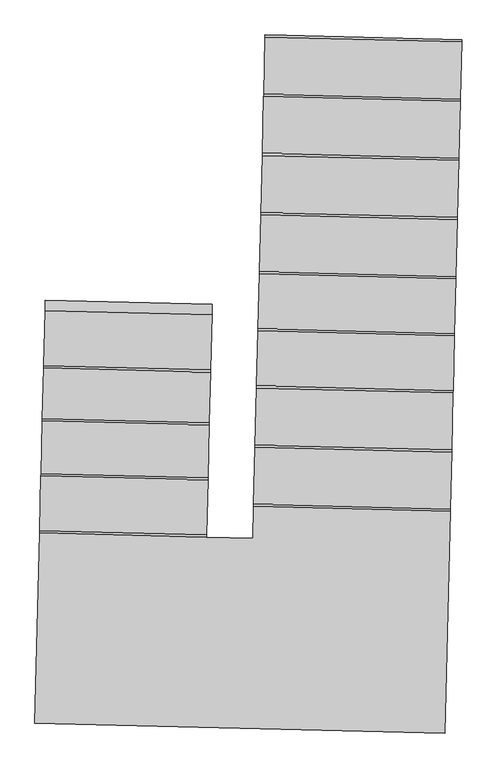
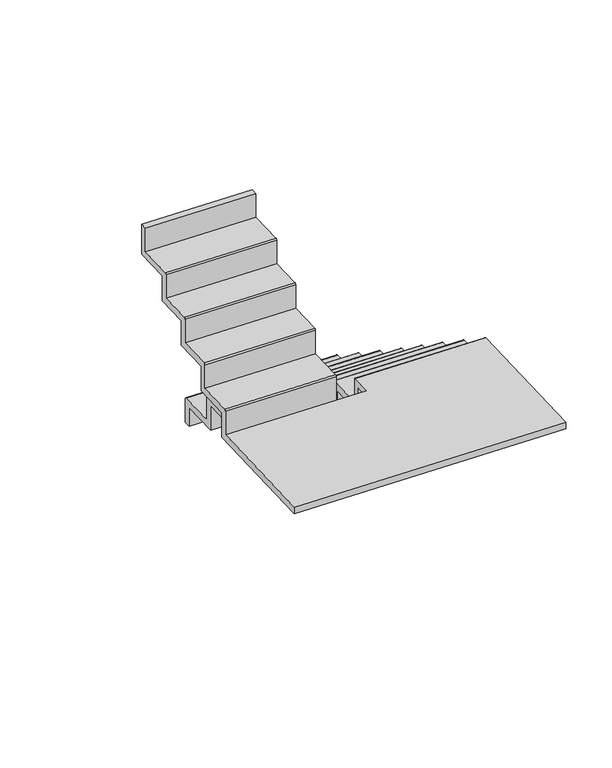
"""IFC4 building model written with IfcOpenShell, lengths in millimetres: stair flight geometry, Huella 50 mm Contrahuella 13 mm."""

from ifc_helpers import new_model, si_unit, frame, origin, place, context, project, spatial, circle_curve, source, transform, mapped, element, save
from ifc_brep_helpers import plane_surface, cylinder_surface, advanced_brep


def stair_flight_34b09c1e(model_context):
    return source(origin(), model_context, "Body", "AdvancedBrep", [
        advanced_brep(
        [(6015.8620475, 3534.5215625, 179.3103448), (6015.8620475, 3534.5215625, 0.0), (6014.6346639, 3484.5366295, 0.0), (6014.6346639, 3484.5366295, 139.3103448), (6007.7613159, 3204.6210045, 139.3103448), (6007.7613159, 3204.6210045, 328.6206897), (6000.887968, 2924.7053799, 328.6206897), (6000.887968, 2924.7053799, 517.9310345), (5994.01462, 2644.789755, 517.9310345), (5994.01462, 2644.789755, 707.2413793), (5987.141272, 2364.87413, 707.2413793), (5987.141272, 2364.87413, 896.5517241), (5980.5134007, 2094.9554917, 896.5517241), (5980.5134007, 2094.9554917, 1085.862069), (5973.8855295, 1825.0368534, 1085.862069), (5973.8855295, 1825.0368534, 1275.1724138), (5967.0121815, 1545.1212284, 1275.1724138), (5967.0121815, 1545.1212284, 1464.4827586), (5960.1388335, 1265.2056032, 1464.4827586), (5960.1388335, 1265.2056032, 1653.7931034), (5957.4385897, 1155.2387507, 1653.7931034), (5957.4385897, 1155.2387507, 1703.7931034), (5961.1207404, 1305.1935496, 1703.7931034), (5961.3662171, 1315.1905362, 1693.7931034), (5961.3662171, 1315.1905362, 1514.4827586), (5967.9940884, 1585.1091748, 1514.4827586), (5968.2395651, 1595.1061615, 1504.4827586), (5968.2395651, 1595.1061615, 1325.1724138), (5974.8674363, 1865.0247998, 1325.1724138), (5975.1129131, 1875.0217864, 1315.1724138), (5975.1129131, 1875.0217864, 1135.862069), (5981.4953076, 2134.9434381, 1135.862069), (5981.7407843, 2144.9404247, 1125.862069), (5981.7407843, 2144.9404247, 946.5517241), (5988.1231789, 2404.8620764, 946.5517241), (5988.3686556, 2414.859063, 936.5517241), (5988.3686556, 2414.859063, 757.2413793), (5994.9965268, 2684.7777014, 757.2413793), (5995.2420035, 2694.774688, 747.2413793), (5995.2420035, 2694.774688, 567.9310345), (6001.8698748, 2964.6933263, 567.9310345), (6002.1153515, 2974.6903129, 557.9310345), (6002.1153515, 2974.6903129, 378.6206897), (6008.7432228, 3244.6089509, 378.6206897), (6008.9886995, 3254.6059375, 368.6206897), (6008.9886995, 3254.6059375, 189.3103448), (6015.6165708, 3524.5245759, 189.3103448), (6944.3544178, 3461.7072962, 0.0), (6945.5818013, 3511.6922292, 0.0), (6945.5818013, 3511.6922292, 179.3103448), (6945.3363246, 3501.6952426, 189.3103448), (6938.7084537, 3231.7766044, 189.3103448), (6938.7084537, 3231.7766044, 368.6206897), (6938.462977, 3221.7796178, 378.6206897), (6931.8351061, 2951.8609794, 378.6206897), (6931.8351061, 2951.8609794, 557.9310345), (6931.5896294, 2941.8639928, 567.9310345), (6924.9617585, 2671.9453549, 567.9310345), (6924.9617585, 2671.9453549, 747.2413793), (6924.7162818, 2661.9483683, 757.2413793), (6918.0884109, 2392.0297301, 757.2413793), (6918.0884109, 2392.0297301, 936.5517241), (6917.8429342, 2382.0327435, 946.5517241), (6911.4605399, 2122.1110916, 946.5517241), (6911.4605399, 2122.1110916, 1125.862069), (6911.2150632, 2112.114105, 1135.862069), (6904.832669, 1852.1924531, 1135.862069), (6904.832669, 1852.1924531, 1315.1724138), (6904.5871923, 1842.1954665, 1325.1724138), (6897.9593214, 1572.2768281, 1325.1724138), (6897.9593214, 1572.2768281, 1504.4827586), (6897.7138447, 1562.2798415, 1514.4827586), (6891.0859738, 1292.3612033, 1514.4827586), (6891.0859738, 1292.3612033, 1693.7931034), (6890.8404971, 1282.3642167, 1703.7931034), (6865.0980794, 234.0097105, 1703.7931034), (6865.0980794, 234.0097105, 1653.7931034), (6889.8585903, 1242.3762703, 1653.7931034), (6889.8585903, 1242.3762703, 1464.4827586), (6896.7319379, 1522.2918951, 1464.4827586), (6896.7319379, 1522.2918951, 1275.1724138), (6903.6052855, 1802.2075201, 1275.1724138), (6903.6052855, 1802.2075201, 1085.862069), (6910.2331564, 2072.1261586, 1085.862069), (6910.2331564, 2072.1261586, 896.5517241), (6916.8610273, 2342.0447971, 896.5517241), (6916.8610273, 2342.0447971, 707.2413793), (6923.734375, 2621.9604219, 707.2413793), (6923.734375, 2621.9604219, 517.9310345), (6930.6077226, 2901.8760464, 517.9310345), (6930.6077226, 2901.8760464, 328.6206897), (6937.4810702, 3181.7916714, 328.6206897), (6937.4810702, 3181.7916714, 139.3103448), (6944.3544178, 3461.7072962, 139.3103448), (4947.742945, 1180.0318975, 1703.7931034), (4925.6500419, 280.3031029, 1703.7931034), (5737.5048856, 1160.6392379, 1703.7931034), (5737.5048856, 1160.6392379, 1653.7931034), (4925.6500419, 280.3031029, 1653.7931034), (4948.9703285, 1230.0168305, 1653.7931034), (5738.7322692, 1210.6241709, 1653.7931034), (4947.742945, 1180.0318975, 1883.1034483), (4947.9884217, 1190.0288841, 1893.1034483), (4954.370816, 1449.950536, 1893.1034483), (4954.370816, 1449.950536, 2072.4137931), (4954.6162927, 1459.9475226, 2082.4137931), (4960.7532102, 1709.8721876, 2082.4137931), (4960.7532102, 1709.8721876, 2261.7241379), (4960.9986869, 1719.8691742, 2271.7241379), (4966.8901278, 1959.7968531, 2271.7241379), (4966.8901278, 1959.7968531, 2451.0344828), (4967.1356045, 1969.7938397, 2461.0344828), (4973.5179987, 2229.7154914, 2461.0344828), (4973.5179987, 2229.7154914, 2640.3448276), (4974.7453822, 2279.7004244, 2640.3448276), (4974.7453822, 2279.7004244, 2411.0344828), (4968.1175113, 2009.7817862, 2411.0344828), (4968.1175113, 2009.7817862, 2221.7241379), (4961.9805937, 1759.8571206, 2221.7241379), (4961.9805937, 1759.8571206, 2032.4137931), (4955.5981995, 1499.935469, 2032.4137931), (4955.5981995, 1499.935469, 1843.1034483), (4948.9703285, 1230.0168305, 1843.1034483), (5738.7322692, 1210.6241709, 1843.1034483), (5745.3601404, 1480.5428094, 1843.1034483), (5745.3601404, 1480.5428094, 2032.4137931), (5751.742535, 1740.464461, 2032.4137931), (5751.742535, 1740.464461, 2221.7241379), (5757.8794528, 1990.3891267, 2221.7241379), (5757.8794528, 1990.3891267, 2411.0344828), (5764.5073241, 2260.3077652, 2411.0344828), (5764.5073241, 2260.3077652, 2640.3448276), (5763.2799405, 2210.3228322, 2640.3448276), (5763.2799405, 2210.3228322, 2461.0344828), (5756.897546, 1950.4011803, 2461.0344828), (5756.6520693, 1940.4041937, 2451.0344828), (5756.6520693, 1940.4041937, 2271.7241379), (5750.7606281, 1700.4765145, 2271.7241379), (5750.5151514, 1690.4795279, 2261.7241379), (5750.5151514, 1690.4795279, 2082.4137931), (5744.3782336, 1440.554863, 2082.4137931), (5744.1327569, 1430.5578764, 2072.4137931), (5744.1327569, 1430.5578764, 1893.1034483), (5737.7503623, 1170.6362245, 1893.1034483), (5737.5048856, 1160.6392379, 1883.1034483)],
        [
            (0, 1),
            (1, 2),
            (2, 3),
            (3, 4),
            (4, 5),
            (5, 6),
            (6, 7),
            (7, 8),
            (8, 9),
            (9, 10),
            (10, 11),
            (11, 12),
            (12, 13),
            (13, 14),
            (14, 15),
            (15, 16),
            (16, 17),
            (17, 18),
            (18, 19),
            (19, 20),
            (20, 21),
            (21, 22),
            (22, 23, circle_curve(frame((5961.1207404, 1305.1935496, 1693.7931034), z_axis=(-0.9996986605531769, 0.02454766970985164, 0.0), x_axis=(-0.02454766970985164, -0.9996986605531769, 0.0)), 10.0)),
            (23, 24),
            (24, 25),
            (25, 26, circle_curve(frame((5967.9940884, 1585.1091748, 1504.4827586), z_axis=(-0.9996986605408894, 0.024547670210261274, 0.0), x_axis=(-0.024547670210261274, -0.9996986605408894, 0.0)), 10.0)),
            (26, 27),
            (27, 28),
            (28, 29, circle_curve(frame((5974.8674363, 1865.0247998, 1315.1724138), z_axis=(-0.9996986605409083, 0.024547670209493, 0.0), x_axis=(-0.024547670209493, -0.9996986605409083, 0.0)), 10.0)),
            (29, 30),
            (30, 31),
            (31, 32, circle_curve(frame((5981.4953076, 2134.9434381, 1125.862069), z_axis=(-0.9996986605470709, 0.02454766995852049, 0.0), x_axis=(-0.02454766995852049, -0.9996986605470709, 0.0)), 10.0)),
            (32, 33),
            (33, 34),
            (34, 35, circle_curve(frame((5988.1231789, 2404.8620764, 936.5517241), z_axis=(-0.9996986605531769, 0.024547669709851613, 0.0), x_axis=(-0.024547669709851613, -0.9996986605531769, 0.0)), 10.0)),
            (35, 36),
            (36, 37),
            (37, 38, circle_curve(frame((5994.9965268, 2684.7777014, 747.2413793), z_axis=(-0.999698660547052, 0.024547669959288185, 0.0), x_axis=(-0.024547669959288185, -0.999698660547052, 0.0)), 10.0)),
            (38, 39),
            (39, 40),
            (40, 41, circle_curve(frame((6001.8698748, 2964.6933263, 557.9310345), z_axis=(-0.99969866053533, 0.024547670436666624, 0.0), x_axis=(-0.024547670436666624, -0.99969866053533, 0.0)), 10.0)),
            (41, 42),
            (42, 43),
            (43, 44, circle_curve(frame((6008.7432228, 3244.6089509, 368.6206897), z_axis=(-0.999698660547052, 0.024547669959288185, 0.0), x_axis=(-0.024547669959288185, -0.999698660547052, 0.0)), 10.0)),
            (44, 45),
            (45, 46),
            (46, 0, circle_curve(frame((6015.6165708, 3524.5245759, 179.3103448), z_axis=(-0.9996986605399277, 0.02454767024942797, 0.0), x_axis=(-0.02454767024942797, -0.9996986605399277, 0.0)), 10.0)),
            (47, 48),
            (48, 49),
            (49, 50, circle_curve(frame((6945.3363246, 3501.6952426, 179.3103448), z_axis=(0.9996986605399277, -0.02454767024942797, 0.0), x_axis=(-0.02454767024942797, -0.9996986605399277, 0.0)), 10.0)),
            (50, 51),
            (51, 52),
            (52, 53, circle_curve(frame((6938.462977, 3221.7796178, 368.6206897), z_axis=(0.999698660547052, -0.024547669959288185, 0.0), x_axis=(-0.024547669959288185, -0.999698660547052, 0.0)), 10.0)),
            (53, 54),
            (54, 55),
            (55, 56, circle_curve(frame((6931.5896294, 2941.8639928, 557.9310345), z_axis=(0.99969866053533, -0.024547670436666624, 0.0), x_axis=(-0.024547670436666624, -0.99969866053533, 0.0)), 10.0)),
            (56, 57),
            (57, 58),
            (58, 59, circle_curve(frame((6924.7162818, 2661.9483683, 747.2413793), z_axis=(0.999698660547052, -0.024547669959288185, 0.0), x_axis=(-0.024547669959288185, -0.999698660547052, 0.0)), 10.0)),
            (59, 60),
            (60, 61),
            (61, 62, circle_curve(frame((6917.8429342, 2382.0327435, 936.5517241), z_axis=(0.9996986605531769, -0.024547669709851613, 0.0), x_axis=(-0.024547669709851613, -0.9996986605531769, 0.0)), 10.0)),
            (62, 63),
            (63, 64),
            (64, 65, circle_curve(frame((6911.2150632, 2112.114105, 1125.862069), z_axis=(0.9996986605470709, -0.02454766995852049, 0.0), x_axis=(-0.02454766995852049, -0.9996986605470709, 0.0)), 10.0)),
            (65, 66),
            (66, 67),
            (67, 68, circle_curve(frame((6904.5871923, 1842.1954665, 1315.1724138), z_axis=(0.9996986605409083, -0.024547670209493, 0.0), x_axis=(-0.024547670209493, -0.9996986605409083, 0.0)), 10.0)),
            (68, 69),
            (69, 70),
            (70, 71, circle_curve(frame((6897.7138447, 1562.2798415, 1504.4827586), z_axis=(0.9996986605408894, -0.024547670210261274, 0.0), x_axis=(-0.024547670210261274, -0.9996986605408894, 0.0)), 10.0)),
            (71, 72),
            (72, 73),
            (73, 74, circle_curve(frame((6890.8404971, 1282.3642167, 1693.7931034), z_axis=(0.9996986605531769, -0.02454766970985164, 0.0), x_axis=(-0.02454766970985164, -0.9996986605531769, 0.0)), 10.0)),
            (74, 75),
            (75, 76),
            (76, 77),
            (77, 78),
            (78, 79),
            (79, 80),
            (80, 81),
            (81, 82),
            (82, 83),
            (83, 84),
            (84, 85),
            (85, 86),
            (86, 87),
            (87, 88),
            (88, 89),
            (89, 90),
            (90, 91),
            (91, 92),
            (92, 93),
            (93, 47),
            (0, 49),
            (48, 1),
            (47, 2),
            (93, 3),
            (50, 46),
            (45, 51),
            (92, 4),
            (44, 52),
            (91, 5),
            (53, 43),
            (42, 54),
            (90, 6),
            (41, 55),
            (89, 7),
            (56, 40),
            (39, 57),
            (88, 8),
            (38, 58),
            (87, 9),
            (59, 37),
            (36, 60),
            (86, 10),
            (35, 61),
            (85, 11),
            (62, 34),
            (33, 63),
            (84, 12),
            (32, 64),
            (83, 13),
            (65, 31),
            (30, 66),
            (82, 14),
            (29, 67),
            (81, 15),
            (68, 28),
            (27, 69),
            (80, 16),
            (26, 70),
            (79, 17),
            (71, 25),
            (24, 72),
            (78, 18),
            (23, 73),
            (77, 19),
            (94, 95),
            (95, 75),
            (74, 22),
            (21, 96),
            (96, 94),
            (97, 20),
            (76, 98),
            (98, 99),
            (99, 100),
            (100, 97),
            (94, 101),
            (101, 102, circle_curve(frame((4947.9884217, 1190.0288841, 1883.1034483), z_axis=(-0.9996986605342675, 0.024547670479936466, 0.0), x_axis=(0.024547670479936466, 0.9996986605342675, 0.0)), 10.0)),
            (102, 103),
            (103, 104),
            (104, 105, circle_curve(frame((4954.6162927, 1459.9475226, 2072.4137931), z_axis=(-0.9996986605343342, 0.024547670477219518, 0.0), x_axis=(0.024547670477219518, 0.9996986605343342, 0.0)), 10.0)),
            (105, 106),
            (106, 107),
            (107, 108, circle_curve(frame((4960.9986869, 1719.8691742, 2261.7241379), z_axis=(-0.9996986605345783, 0.024547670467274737, 0.0), x_axis=(0.024547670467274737, 0.9996986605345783, 0.0)), 10.0)),
            (108, 109),
            (109, 110),
            (110, 111, circle_curve(frame((4967.1356045, 1969.7938397, 2451.0344828), z_axis=(-0.9996986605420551, 0.024547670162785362, 0.0), x_axis=(0.024547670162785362, 0.9996986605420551, 0.0)), 10.0)),
            (111, 112),
            (112, 113),
            (113, 114),
            (114, 115),
            (115, 116),
            (116, 117),
            (117, 118),
            (118, 119),
            (119, 120),
            (120, 121),
            (121, 122),
            (122, 99),
            (98, 95),
            (97, 96),
            (100, 123),
            (123, 124),
            (124, 125),
            (125, 126),
            (126, 127),
            (127, 128),
            (128, 129),
            (129, 130),
            (130, 131),
            (131, 132),
            (132, 133),
            (133, 134),
            (134, 135, circle_curve(frame((5756.897546, 1950.4011803, 2451.0344828), z_axis=(0.9996986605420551, -0.024547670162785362, 0.0), x_axis=(0.024547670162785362, 0.9996986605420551, 0.0)), 10.0)),
            (135, 136),
            (136, 137),
            (137, 138, circle_curve(frame((5750.7606281, 1700.4765145, 2261.7241379), z_axis=(0.9996986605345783, -0.024547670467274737, 0.0), x_axis=(0.024547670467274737, 0.9996986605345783, 0.0)), 10.0)),
            (138, 139),
            (139, 140),
            (140, 141, circle_curve(frame((5744.3782336, 1440.554863, 2072.4137931), z_axis=(0.9996986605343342, -0.024547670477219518, 0.0), x_axis=(0.024547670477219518, 0.9996986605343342, 0.0)), 10.0)),
            (141, 142),
            (142, 143),
            (143, 144, circle_curve(frame((5737.7503623, 1170.6362245, 1883.1034483), z_axis=(0.9996986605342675, -0.024547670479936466, 0.0), x_axis=(0.024547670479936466, 0.9996986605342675, 0.0)), 10.0)),
            (144, 96),
            (144, 101),
            (122, 123),
            (102, 143),
            (142, 103),
            (121, 124),
            (141, 104),
            (120, 125),
            (105, 140),
            (139, 106),
            (119, 126),
            (138, 107),
            (118, 127),
            (108, 137),
            (136, 109),
            (117, 128),
            (135, 110),
            (116, 129),
            (132, 113),
            (112, 133),
            (115, 130),
            (114, 131),
            (111, 134),
        ],
        [
            plane_surface(frame((6015.6165708, 3524.5245759, 189.3103448), z_axis=(-0.9996986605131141, 0.0245476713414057, 0.0), x_axis=(0.0245476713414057, 0.9996986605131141, 0.0))),
            plane_surface(frame((6945.3363246, 3501.6952426, 189.3103448), z_axis=(0.9996986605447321, -0.024547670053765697, 0.0), x_axis=(0.024547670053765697, 0.9996986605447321, 0.0))),
            plane_surface(frame((6015.8620475, 3534.5215625, 179.3103448), z_axis=(0.02454767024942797, 0.9996986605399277, 0.0), x_axis=(0.9996986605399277, -0.02454767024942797, 0.0))),
            plane_surface(frame((6015.8620475, 3534.5215625, 0.0), z_axis=(0.0, 0.0, -1.0000000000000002), x_axis=(0.9996986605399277, -0.02454767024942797, 0.0))),
            plane_surface(frame((6014.6346639, 3484.5366295, 0.0), z_axis=(-0.024547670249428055, -0.9996986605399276, 0.0), x_axis=(0.9996986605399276, -0.024547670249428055, 0.0))),
            plane_surface(frame((6865.0654435, 232.6806231, 189.3103448), z_axis=(0.0, 0.0, 1.0), x_axis=(0.024547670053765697, 0.9996986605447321, 0.0))),
            plane_surface(frame((6865.0654435, 232.6806231, 139.3103448), z_axis=(0.0, 0.0, -1.0), x_axis=(-0.024547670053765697, -0.9996986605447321, 0.0))),
            plane_surface(frame((6008.9886995, 3254.6059375, 368.6206897), z_axis=(0.024547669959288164, 0.999698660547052, 0.0), x_axis=(0.999698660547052, -0.024547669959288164, 0.0))),
            plane_surface(frame((6007.7613159, 3204.6210045, 139.3103448), z_axis=(-0.024547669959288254, -0.999698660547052, 0.0), x_axis=(0.999698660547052, -0.024547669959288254, 0.0))),
            plane_surface(frame((6865.0654435, 232.6806231, 378.6206897), z_axis=(0.0, 0.0, 1.0), x_axis=(0.024547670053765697, 0.9996986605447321, 0.0))),
            plane_surface(frame((6865.0654435, 232.6806231, 328.6206897), z_axis=(0.0, 0.0, -1.0), x_axis=(-0.024547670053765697, -0.9996986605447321, 0.0))),
            plane_surface(frame((6002.1153515, 2974.6903129, 557.9310345), z_axis=(0.024547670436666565, 0.99969866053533, 0.0), x_axis=(0.99969866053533, -0.024547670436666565, 0.0))),
            plane_surface(frame((6000.887968, 2924.7053799, 328.6206897), z_axis=(-0.02454767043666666, -0.99969866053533, 0.0), x_axis=(0.99969866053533, -0.02454767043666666, 0.0))),
            plane_surface(frame((6865.0654435, 232.6806231, 567.9310345), z_axis=(0.0, 0.0, 1.0), x_axis=(0.024547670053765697, 0.9996986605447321, 0.0))),
            plane_surface(frame((6865.0654435, 232.6806231, 517.9310345), z_axis=(0.0, 0.0, -1.0), x_axis=(-0.024547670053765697, -0.9996986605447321, 0.0))),
            plane_surface(frame((5995.2420035, 2694.774688, 747.2413793), z_axis=(0.024547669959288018, 0.999698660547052, 0.0), x_axis=(0.999698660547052, -0.024547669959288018, 0.0))),
            plane_surface(frame((5994.01462, 2644.789755, 517.9310345), z_axis=(-0.024547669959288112, -0.999698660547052, 0.0), x_axis=(0.999698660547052, -0.024547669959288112, 0.0))),
            plane_surface(frame((6865.0654435, 232.6806231, 757.2413793), z_axis=(0.0, 0.0, 1.0), x_axis=(0.024547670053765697, 0.9996986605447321, 0.0))),
            plane_surface(frame((6865.0654435, 232.6806231, 707.2413793), z_axis=(0.0, 0.0, -1.0), x_axis=(-0.024547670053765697, -0.9996986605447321, 0.0))),
            plane_surface(frame((5988.3686556, 2414.859063, 936.5517241), z_axis=(0.024547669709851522, 0.9996986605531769, 0.0), x_axis=(0.9996986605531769, -0.024547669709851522, 0.0))),
            plane_surface(frame((5987.141272, 2364.87413, 707.2413793), z_axis=(-0.024547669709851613, -0.9996986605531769, 0.0), x_axis=(0.9996986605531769, -0.024547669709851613, 0.0))),
            plane_surface(frame((6865.0654435, 232.6806231, 946.5517241), z_axis=(0.0, 0.0, 1.0), x_axis=(0.024547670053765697, 0.9996986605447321, 0.0))),
            plane_surface(frame((6865.0654435, 232.6806231, 896.5517241), z_axis=(0.0, 0.0, -1.0), x_axis=(-0.024547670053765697, -0.9996986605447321, 0.0))),
            plane_surface(frame((5981.7407843, 2144.9404247, 1125.862069), z_axis=(0.024547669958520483, 0.9996986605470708, 0.0), x_axis=(0.9996986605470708, -0.024547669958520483, 0.0))),
            plane_surface(frame((5980.5134007, 2094.9554917, 896.5517241), z_axis=(-0.024547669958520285, -0.9996986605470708, 0.0), x_axis=(0.9996986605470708, -0.024547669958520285, 0.0))),
            plane_surface(frame((6865.0654435, 232.6806231, 1135.862069), z_axis=(0.0, 0.0, 1.0), x_axis=(0.024547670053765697, 0.9996986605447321, 0.0))),
            plane_surface(frame((6865.0654435, 232.6806231, 1085.862069), z_axis=(0.0, 0.0, -1.0), x_axis=(-0.024547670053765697, -0.9996986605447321, 0.0))),
            plane_surface(frame((5975.1129131, 1875.0217864, 1315.1724138), z_axis=(0.024547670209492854, 0.9996986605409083, 0.0), x_axis=(0.9996986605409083, -0.024547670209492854, 0.0))),
            plane_surface(frame((5973.8855295, 1825.0368534, 1085.862069), z_axis=(-0.02454767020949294, -0.9996986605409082, 0.0), x_axis=(0.9996986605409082, -0.02454767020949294, 0.0))),
            plane_surface(frame((6865.0654435, 232.6806231, 1325.1724138), z_axis=(0.0, 0.0, 1.0), x_axis=(0.024547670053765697, 0.9996986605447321, 0.0))),
            plane_surface(frame((6865.0654435, 232.6806231, 1275.1724138), z_axis=(0.0, 0.0, -1.0), x_axis=(-0.024547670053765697, -0.9996986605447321, 0.0))),
            plane_surface(frame((5968.2395651, 1595.1061615, 1504.4827586), z_axis=(0.024547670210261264, 0.9996986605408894, 0.0), x_axis=(0.9996986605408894, -0.024547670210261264, 0.0))),
            plane_surface(frame((5967.0121815, 1545.1212284, 1275.1724138), z_axis=(-0.024547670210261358, -0.9996986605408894, 0.0), x_axis=(0.9996986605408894, -0.024547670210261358, 0.0))),
            plane_surface(frame((6865.0654435, 232.6806231, 1514.4827586), z_axis=(0.0, 0.0, 1.0), x_axis=(0.024547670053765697, 0.9996986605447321, 0.0))),
            plane_surface(frame((6865.0654435, 232.6806231, 1464.4827586), z_axis=(0.0, 0.0, -1.0), x_axis=(-0.024547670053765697, -0.9996986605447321, 0.0))),
            plane_surface(frame((5961.3662171, 1315.1905362, 1693.7931034), z_axis=(0.024547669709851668, 0.9996986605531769, 0.0), x_axis=(0.9996986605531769, -0.024547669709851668, 0.0))),
            plane_surface(frame((5960.1388335, 1265.2056032, 1464.4827586), z_axis=(-0.024547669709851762, -0.9996986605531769, 0.0), x_axis=(0.9996986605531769, -0.024547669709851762, 0.0))),
            plane_surface(frame((4925.6500419, 280.3031029, 1703.7931034), z_axis=(0.0, 0.0, 1.0), x_axis=(-0.024547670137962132, -0.9996986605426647, 0.0))),
            plane_surface(frame((4925.6500419, 280.3031029, 1653.7931034), z_axis=(0.0, 0.0, -1.0), x_axis=(0.024547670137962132, 0.9996986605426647, 0.0))),
            plane_surface(frame((4947.742945, 1180.0318975, 1703.7931034), z_axis=(-0.9996986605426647, 0.024547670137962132, 0.0), x_axis=(0.0, 0.0, -1.0))),
            plane_surface(frame((4925.6500419, 280.3031029, 1703.7931034), z_axis=(-0.023862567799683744, -0.9997152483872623, 0.0), x_axis=(0.0, 0.0, -1.0))),
            plane_surface(frame((5957.4385897, 1155.2387507, 1703.7931034), z_axis=(0.024547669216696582, 0.9996986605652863, 0.0), x_axis=(0.0, 0.0, -1.0))),
            plane_surface(frame((5737.7503623, 1170.6362245, 1893.1034483), z_axis=(0.9996986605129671, -0.024547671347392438, 0.0), x_axis=(0.024547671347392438, 0.9996986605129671, 0.0))),
            plane_surface(frame((5737.5048856, 1160.6392379, 1883.1034483), z_axis=(-0.024547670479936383, -0.9996986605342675, 0.0), x_axis=(-0.9996986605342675, 0.024547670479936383, 0.0))),
            plane_surface(frame((5738.7322692, 1210.6241709, 1653.7931034), z_axis=(0.02454767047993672, 0.9996986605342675, 0.0), x_axis=(-0.9996986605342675, 0.02454767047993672, 0.0))),
            plane_surface(frame((4925.6500419, 280.3031029, 1893.1034483), z_axis=(0.0, 0.0, 1.0), x_axis=(-0.024547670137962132, -0.9996986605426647, 0.0))),
            plane_surface(frame((4925.6500419, 280.3031029, 1843.1034483), z_axis=(0.0, 0.0, -1.0), x_axis=(0.024547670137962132, 0.9996986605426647, 0.0))),
            plane_surface(frame((5744.1327569, 1430.5578764, 2072.4137931), z_axis=(-0.024547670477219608, -0.9996986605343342, 0.0), x_axis=(-0.9996986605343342, 0.024547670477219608, 0.0))),
            plane_surface(frame((5745.3601404, 1480.5428094, 1843.1034483), z_axis=(0.0245476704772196, 0.9996986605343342, 0.0), x_axis=(-0.9996986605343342, 0.0245476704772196, 0.0))),
            plane_surface(frame((4925.6500419, 280.3031029, 2082.4137931), z_axis=(0.0, 0.0, 1.0), x_axis=(-0.024547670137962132, -0.9996986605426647, 0.0))),
            plane_surface(frame((4925.6500419, 280.3031029, 2032.4137931), z_axis=(0.0, 0.0, -1.0), x_axis=(0.024547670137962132, 0.9996986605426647, 0.0))),
            plane_surface(frame((5750.5151514, 1690.4795279, 2261.7241379), z_axis=(-0.024547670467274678, -0.9996986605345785, 0.0), x_axis=(-0.9996986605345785, 0.024547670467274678, 0.0))),
            plane_surface(frame((5751.742535, 1740.464461, 2032.4137931), z_axis=(0.024547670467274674, 0.9996986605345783, 0.0), x_axis=(-0.9996986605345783, 0.024547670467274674, 0.0))),
            plane_surface(frame((4925.6500419, 280.3031029, 2271.7241379), z_axis=(0.0, 0.0, 1.0), x_axis=(-0.024547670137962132, -0.9996986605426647, 0.0))),
            plane_surface(frame((4925.6500419, 280.3031029, 2221.7241379), z_axis=(0.0, 0.0, -1.0), x_axis=(0.024547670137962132, 0.9996986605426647, 0.0))),
            plane_surface(frame((5756.6520693, 1940.4041937, 2451.0344828), z_axis=(-0.024547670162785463, -0.9996986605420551, 0.0), x_axis=(-0.9996986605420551, 0.024547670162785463, 0.0))),
            plane_surface(frame((5757.8794528, 1990.3891267, 2221.7241379), z_axis=(0.02454767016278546, 0.9996986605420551, 0.0), x_axis=(-0.9996986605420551, 0.02454767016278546, 0.0))),
            plane_surface(frame((5763.2799405, 2210.3228322, 2640.3448276), z_axis=(-0.02454766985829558, -0.9996986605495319, 0.0), x_axis=(-0.9996986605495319, 0.02454766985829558, 0.0))),
            plane_surface(frame((5763.2799405, 2210.3228322, 2411.0344828), z_axis=(0.0, 0.0, -1.0000000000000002), x_axis=(-0.9996986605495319, 0.02454766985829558, 0.0))),
            plane_surface(frame((5764.5073241, 2260.3077652, 2411.0344828), z_axis=(0.024547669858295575, 0.9996986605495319, 0.0), x_axis=(-0.9996986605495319, 0.024547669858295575, 0.0))),
            plane_surface(frame((5764.5073241, 2260.3077652, 2640.3448276), z_axis=(0.0, 0.0, 1.0000000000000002), x_axis=(-0.9996986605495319, 0.024547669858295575, 0.0))),
            plane_surface(frame((4925.6500419, 280.3031029, 2461.0344828), z_axis=(0.0, 0.0, 1.0), x_axis=(-0.024547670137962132, -0.9996986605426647, 0.0))),
            cylinder_surface(frame((6015.6165708, 3524.5245759, 179.3103448), z_axis=(-0.9996986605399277, 0.02454767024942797, 0.0), x_axis=(-0.02454767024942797, -0.9996986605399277, 0.0)), 10.0),
            cylinder_surface(frame((6008.7432228, 3244.6089509, 368.6206897), z_axis=(-0.999698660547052, 0.024547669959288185, 0.0), x_axis=(-0.024547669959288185, -0.999698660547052, 0.0)), 10.0),
            cylinder_surface(frame((6001.8698748, 2964.6933263, 557.9310345), z_axis=(-0.99969866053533, 0.024547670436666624, 0.0), x_axis=(-0.024547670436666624, -0.99969866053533, 0.0)), 10.0),
            cylinder_surface(frame((5994.9965268, 2684.7777014, 747.2413793), z_axis=(-0.999698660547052, 0.024547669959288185, 0.0), x_axis=(-0.024547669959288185, -0.999698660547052, 0.0)), 10.0),
            cylinder_surface(frame((5988.1231789, 2404.8620764, 936.5517241), z_axis=(-0.9996986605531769, 0.024547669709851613, 0.0), x_axis=(-0.024547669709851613, -0.9996986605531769, 0.0)), 10.0),
            cylinder_surface(frame((5981.4953076, 2134.9434381, 1125.862069), z_axis=(-0.9996986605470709, 0.02454766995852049, 0.0), x_axis=(-0.02454766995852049, -0.9996986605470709, 0.0)), 10.0),
            cylinder_surface(frame((5974.8674363, 1865.0247998, 1315.1724138), z_axis=(-0.9996986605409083, 0.024547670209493, 0.0), x_axis=(-0.024547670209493, -0.9996986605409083, 0.0)), 10.0),
            cylinder_surface(frame((5967.9940884, 1585.1091748, 1504.4827586), z_axis=(-0.9996986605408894, 0.024547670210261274, 0.0), x_axis=(-0.024547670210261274, -0.9996986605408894, 0.0)), 10.0),
            cylinder_surface(frame((5961.1207404, 1305.1935496, 1693.7931034), z_axis=(-0.9996986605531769, 0.02454766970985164, 0.0), x_axis=(-0.02454766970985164, -0.9996986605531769, 0.0)), 10.0),
            cylinder_surface(frame((5737.7503623, 1170.6362245, 1883.1034483), z_axis=(0.9996986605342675, -0.024547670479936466, 0.0), x_axis=(0.024547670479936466, 0.9996986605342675, 0.0)), 10.0),
            cylinder_surface(frame((5744.3782336, 1440.554863, 2072.4137931), z_axis=(0.9996986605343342, -0.024547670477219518, 0.0), x_axis=(0.024547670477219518, 0.9996986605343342, 0.0)), 10.0),
            cylinder_surface(frame((5750.7606281, 1700.4765145, 2261.7241379), z_axis=(0.9996986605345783, -0.024547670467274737, 0.0), x_axis=(0.024547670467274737, 0.9996986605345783, 0.0)), 10.0),
            cylinder_surface(frame((5756.897546, 1950.4011803, 2451.0344828), z_axis=(0.9996986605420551, -0.024547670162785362, 0.0), x_axis=(0.024547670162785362, 0.9996986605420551, 0.0)), 10.0),
        ],
        [
            (0, [[1, 2, 3, 4, 5, 6, 7, 8, 9, 10, 11, 12, 13, 14, 15, 16, 17, 18, 19, 20, 21, 22, 23, 24, 25, 26, 27, 28, 29, 30, 31, 32, 33, 34, 35, 36, 37, 38, 39, 40, 41, 42, 43, 44, 45, 46, 47]]),
            (1, [[48, 49, 50, 51, 52, 53, 54, 55, 56, 57, 58, 59, 60, 61, 62, 63, 64, 65, 66, 67, 68, 69, 70, 71, 72, 73, 74, 75, 76, 77, 78, 79, 80, 81, 82, 83, 84, 85, 86, 87, 88, 89, 90, 91, 92, 93, 94]]),
            (2, [[-1, 95, -49, 96]]),
            (3, [[-2, -96, -48, 97]]),
            (4, [[-97, -94, 98, -3]]),
            (5, [[-51, 99, -46, 100]]),
            (6, [[-98, -93, 101, -4]]),
            (7, [[-52, -100, -45, 102]]),
            (8, [[-101, -92, 103, -5]]),
            (9, [[-54, 104, -43, 105]]),
            (10, [[-103, -91, 106, -6]]),
            (11, [[-55, -105, -42, 107]]),
            (12, [[-106, -90, 108, -7]]),
            (13, [[-57, 109, -40, 110]]),
            (14, [[-108, -89, 111, -8]]),
            (15, [[-58, -110, -39, 112]]),
            (16, [[-111, -88, 113, -9]]),
            (17, [[-60, 114, -37, 115]]),
            (18, [[-113, -87, 116, -10]]),
            (19, [[-61, -115, -36, 117]]),
            (20, [[-116, -86, 118, -11]]),
            (21, [[-63, 119, -34, 120]]),
            (22, [[-118, -85, 121, -12]]),
            (23, [[-64, -120, -33, 122]]),
            (24, [[-121, -84, 123, -13]]),
            (25, [[-66, 124, -31, 125]]),
            (26, [[-123, -83, 126, -14]]),
            (27, [[-67, -125, -30, 127]]),
            (28, [[-126, -82, 128, -15]]),
            (29, [[-69, 129, -28, 130]]),
            (30, [[-128, -81, 131, -16]]),
            (31, [[-70, -130, -27, 132]]),
            (32, [[-131, -80, 133, -17]]),
            (33, [[-72, 134, -25, 135]]),
            (34, [[-133, -79, 136, -18]]),
            (35, [[-73, -135, -24, 137]]),
            (36, [[-136, -78, 138, -19]]),
            (37, [[139, 140, -75, 141, -22, 142, 143]]),
            (38, [[144, -20, -138, -77, 145, 146, 147, 148]]),
            (39, [[-139, 149, 150, 151, 152, 153, 154, 155, 156, 157, 158, 159, 160, 161, 162, 163, 164, 165, 166, 167, 168, 169, 170, 171, -146, 172]]),
            (40, [[-140, -172, -145, -76]]),
            (41, [[-142, -21, -144, 173]]),
            (42, [[-148, 174, 175, 176, 177, 178, 179, 180, 181, 182, 183, 184, 185, 186, 187, 188, 189, 190, 191, 192, 193, 194, 195, 196, -173]]),
            (43, [[-149, -143, -196, 197]]),
            (44, [[-147, -171, 198, -174]]),
            (45, [[-151, 199, -194, 200]]),
            (46, [[-198, -170, 201, -175]]),
            (47, [[-152, -200, -193, 202]]),
            (48, [[-201, -169, 203, -176]]),
            (49, [[-154, 204, -191, 205]]),
            (50, [[-203, -168, 206, -177]]),
            (51, [[-155, -205, -190, 207]]),
            (52, [[-206, -167, 208, -178]]),
            (53, [[-157, 209, -188, 210]]),
            (54, [[-208, -166, 211, -179]]),
            (55, [[-158, -210, -187, 212]]),
            (56, [[-211, -165, 213, -180]]),
            (57, [[214, -161, 215, -184]]),
            (58, [[-181, -213, -164, 216]]),
            (59, [[-182, -216, -163, 217]]),
            (60, [[-183, -217, -162, -214]]),
            (61, [[-160, 218, -185, -215]]),
            (62, [[-99, -50, -95, -47]]),
            (63, [[-104, -53, -102, -44]]),
            (64, [[-109, -56, -107, -41]]),
            (65, [[-114, -59, -112, -38]]),
            (66, [[-119, -62, -117, -35]]),
            (67, [[-124, -65, -122, -32]]),
            (68, [[-129, -68, -127, -29]]),
            (69, [[-134, -71, -132, -26]]),
            (70, [[-141, -74, -137, -23]]),
            (71, [[-199, -150, -197, -195]]),
            (72, [[-204, -153, -202, -192]]),
            (73, [[-209, -156, -207, -189]]),
            (74, [[-218, -159, -212, -186]]),
        ],
    ),
    ])


if __name__ == "__main__":
    model = new_model("IFC4")
    model_context = context("Model", 3, world=origin())
    ifc_project = project(units=[si_unit("LENGTHUNIT", "METRE", prefix="MILLI")], contexts=[model_context])
    site = spatial("IfcSite", under=ifc_project)
    building = spatial("IfcBuilding", under=site)
    placement = place(None, origin())
    stair_flight_shape = stair_flight_34b09c1e(model_context)
    element("IfcStairFlight", 1, ObjectType="Huella 50 mm Contrahuella 13 mm", at=placement, inside=building, context=model_context, shape_type="MappedRepresentation", body=[
        mapped(stair_flight_shape, transform((0.0, 0.0, 0.0), x_axis=(1.0, 0.0, 0.0), y_axis=(0.0, 1.0, 0.0), z_axis=(0.0, 0.0, 1.0))),
    ])
    save(model, "model.ifc")
